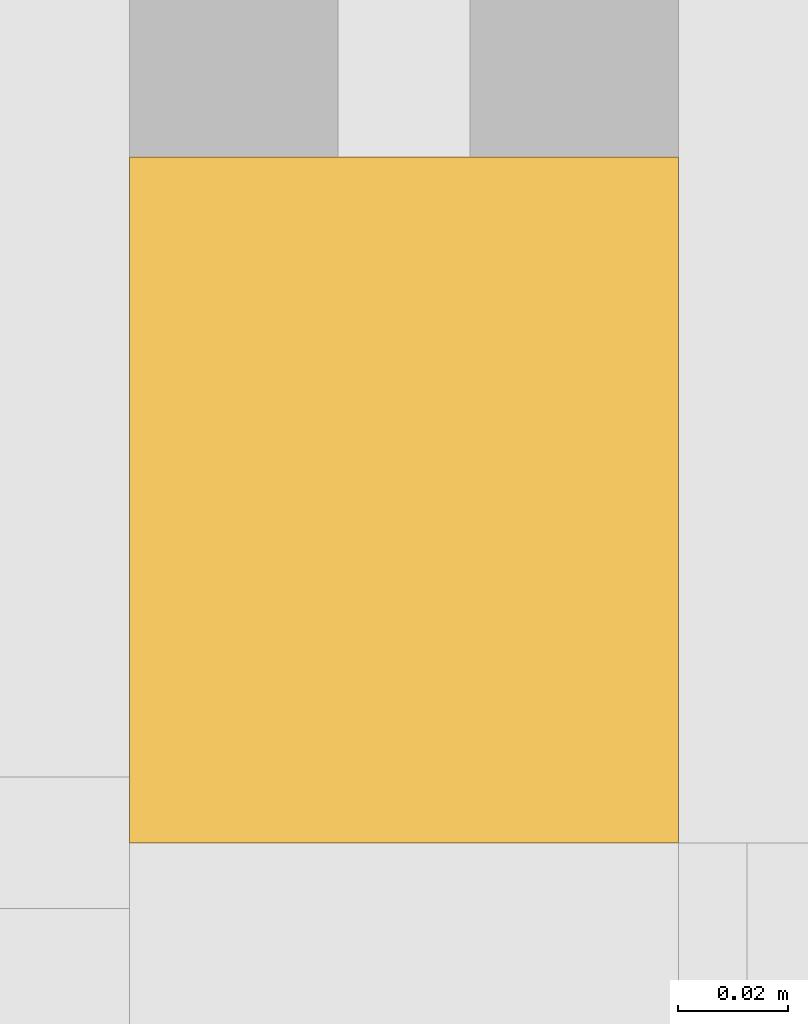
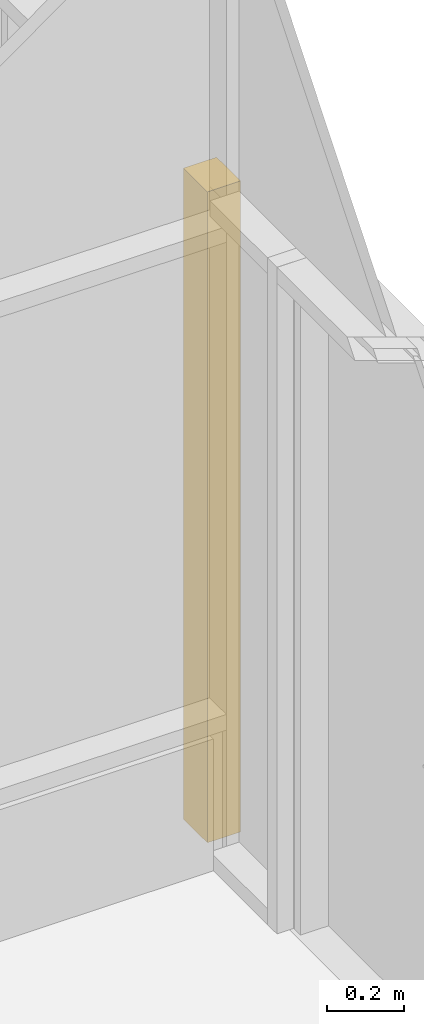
# One storey, part 81 of 100: 1 curtain wall, 1 opening, 1 element without a shape of its own.
"""IFC2X3 building model written with IfcOpenShell, lengths in millimetres."""

from ifc_helpers import new_model, entity, si_unit, converted_unit, derived_unit, direction, frame, frame_2d, origin, place, context, subcontext, project, spatial, rectangle, extrude, material, layer, layer_set, layer_usage, type_object, element, aggregate, save


model = new_model("IFC2X3")

# Units and contexts
model_context = context("Model", 3, precision=0.01, world=origin(), true_north=direction((6.123031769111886e-17, 1.0)))
body_context = subcontext(model_context, "Body", "Model", "MODEL_VIEW")
ifc_project = project(units=[si_unit("LENGTHUNIT", "METRE", prefix="MILLI"), si_unit("AREAUNIT", "SQUARE_METRE"), si_unit("VOLUMEUNIT", "CUBIC_METRE"), converted_unit("PLANEANGLEUNIT", "DEGREE", entity("IfcRatioMeasure", 0.017453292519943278), si_unit("PLANEANGLEUNIT", "RADIAN"), dimensions=[0, 0, 0, 0, 0, 0, 0]), si_unit("MASSUNIT", "GRAM", prefix="KILO"), derived_unit("MASSDENSITYUNIT", [(si_unit("MASSUNIT", "GRAM", prefix="KILO"), 1), (si_unit("LENGTHUNIT", "METRE"), -3)]), derived_unit("MOMENTOFINERTIAUNIT", [(si_unit("LENGTHUNIT", "METRE"), 4)]), si_unit("TIMEUNIT", "SECOND"), si_unit("FREQUENCYUNIT", "HERTZ"), si_unit("THERMODYNAMICTEMPERATUREUNIT", "DEGREE_CELSIUS"), derived_unit("THERMALTRANSMITTANCEUNIT", [(si_unit("MASSUNIT", "GRAM", prefix="KILO"), 1), (si_unit("THERMODYNAMICTEMPERATUREUNIT", "KELVIN"), -1), (si_unit("TIMEUNIT", "SECOND"), -3)]), derived_unit("VOLUMETRICFLOWRATEUNIT", [(si_unit("LENGTHUNIT", "METRE"), 3), (si_unit("TIMEUNIT", "SECOND"), -1)]), derived_unit("MASSFLOWRATEUNIT", [(si_unit("MASSUNIT", "GRAM", prefix="KILO"), 1), (si_unit("TIMEUNIT", "SECOND"), -1)]), derived_unit("ROTATIONALFREQUENCYUNIT", [(si_unit("TIMEUNIT", "SECOND"), -1)]), si_unit("ELECTRICCURRENTUNIT", "AMPERE"), si_unit("ELECTRICVOLTAGEUNIT", "VOLT"), si_unit("POWERUNIT", "WATT"), si_unit("FORCEUNIT", "NEWTON", prefix="KILO"), si_unit("ILLUMINANCEUNIT", "LUX"), si_unit("LUMINOUSFLUXUNIT", "LUMEN"), si_unit("LUMINOUSINTENSITYUNIT", "CANDELA"), derived_unit("USERDEFINED", [(si_unit("MASSUNIT", "GRAM", prefix="KILO"), -1), (si_unit("LENGTHUNIT", "METRE"), -2), (si_unit("TIMEUNIT", "SECOND"), 3), (si_unit("LUMINOUSFLUXUNIT", "LUMEN"), 1)]), derived_unit("SOUNDPOWERUNIT", [(si_unit("MASSUNIT", "GRAM", prefix="KILO"), 1), (si_unit("LENGTHUNIT", "METRE"), 2), (si_unit("TIMEUNIT", "SECOND"), -3)]), derived_unit("SOUNDPRESSUREUNIT", [(si_unit("MASSUNIT", "GRAM", prefix="KILO"), 1), (si_unit("LENGTHUNIT", "METRE"), -1), (si_unit("TIMEUNIT", "SECOND"), -2)]), derived_unit("LINEARVELOCITYUNIT", [(si_unit("LENGTHUNIT", "METRE"), 1), (si_unit("TIMEUNIT", "SECOND"), -1)]), si_unit("PRESSUREUNIT", "PASCAL"), derived_unit("USERDEFINED", [(si_unit("LENGTHUNIT", "METRE"), -2), (si_unit("MASSUNIT", "GRAM", prefix="KILO"), 1), (si_unit("TIMEUNIT", "SECOND"), -2)]), derived_unit("LINEARFORCEUNIT", [(si_unit("MASSUNIT", "GRAM", prefix="KILO"), 1), (si_unit("LENGTHUNIT", "METRE"), 1), (si_unit("TIMEUNIT", "SECOND"), -2), (si_unit("LENGTHUNIT", "METRE"), -1)]), derived_unit("PLANARFORCEUNIT", [(si_unit("MASSUNIT", "GRAM", prefix="KILO"), 1), (si_unit("LENGTHUNIT", "METRE"), 1), (si_unit("TIMEUNIT", "SECOND"), -2), (si_unit("LENGTHUNIT", "METRE"), -2)])], contexts=[model_context])

# Site, building, storey
site_placement = place(None, frame((-14167.972527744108, -657.2125860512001, 0.0)))
site = spatial("IfcSite", under=ifc_project, at=site_placement, Name="Default", CompositionType="ELEMENT")
building_placement = place(site_placement, origin())
building = spatial("IfcBuilding", under=site, at=building_placement, Name="Sample Building", CompositionType="ELEMENT")
storey_placement = place(building_placement, origin())
storey = spatial("IfcBuildingStorey", under=building, at=storey_placement, Name="지상 1층", CompositionType="ELEMENT", Elevation=0.0)

# Curtain walls, opening
curtain_wall_type_1 = type_object("IfcCurtainWallType", Name="커튼월:CW112-스테인리스 스틸 커튼월", PredefinedType="NOTDEFINED")
curtain_wall_1_placement = place(storey_placement, origin())
curtain_wall_1 = element("IfcCurtainWall", 1, at=curtain_wall_1_placement, inside=storey, type_object=curtain_wall_type_1, Name="커튼월:CW112-스테인리스 스틸 커튼월", ObjectType="커튼월:CW112-스테인리스 스틸 커튼월")
ifc_material = material(Name="KBIMS-콘크리트")
ifc_layer = layer(ifc_material, 100.0)
ifc_layer_set = layer_set([ifc_layer], Name="커튼월:CW112-스테인리스 스틸 커튼월")
ifc_layer_usage = layer_usage(ifc_layer_set, "AXIS2", "NEGATIVE", 50.0)
curtain_wall_type_2 = type_object("IfcCurtainWallType", Name="기본 벽:WA111-철근콘크리트구조 벽 100mm", PredefinedType="NOTDEFINED", material=ifc_layer_set)
curtain_wall_2_placement = place(storey_placement, frame((51405.46382893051, 15657.177712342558, -420.0), z_axis=(0.0, 0.0, 1.0), x_axis=(0.0, 1.0, 0.0)))
curtain_wall_2 = element("IfcCurtainWall", 2, at=curtain_wall_2_placement, type_object=curtain_wall_type_2, material=ifc_layer_usage, Name="기본 벽:WA111-철근콘크리트구조 벽 100mm", ObjectType="기본 벽:WA111-철근콘크리트구조 벽 100mm", context=body_context, shape_type="SweptSolid", body=[
    extrude(rectangle(XDim=125.0000000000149, YDim=100.00000000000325, at=frame_2d((0.0, -4.334310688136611e-12), x_axis=(1.0, 0.0))), frame((62.50000000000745, 0.0, 0.0)), (0.0, 0.0, 1.0), 2075.0),
])
opening_placement = place(curtain_wall_2_placement, frame((125.0, -50.0, 0.0)))
element("IfcOpeningElement", 3, at=opening_placement, cuts=curtain_wall_2, Name="DR111-외여닫이문(철재, 일반, 양개):DR111-외여닫이문(유리, 일반, 양개) 950x2100mm:1", ObjectType="Opening", context=body_context, shape_type="SweptSolid", body=[
    extrude(rectangle(XDim=2099.9999999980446, YDim=949.9999999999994, at=frame_2d((1049.9999999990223, 475.00000000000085), x_axis=(1.0, 0.0))), frame((0.0, 0.0, 0.0), z_axis=(0.0, 1.0, 0.0), x_axis=(0.0, 0.0, 1.0)), (0.0, 0.0, 1.0), 100.0),
])
aggregate(curtain_wall_1, [curtain_wall_2])

save(model, "model.ifc")
